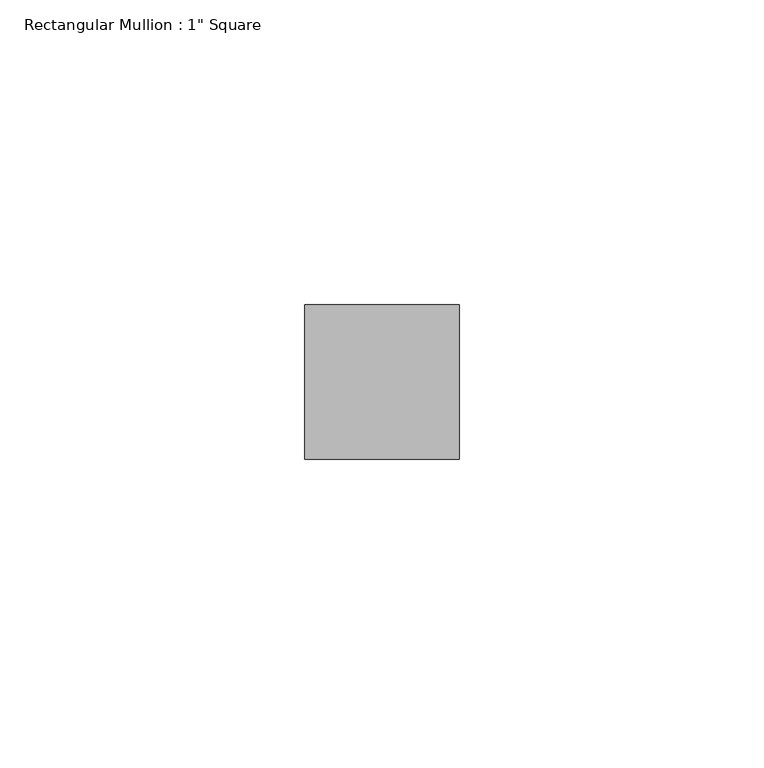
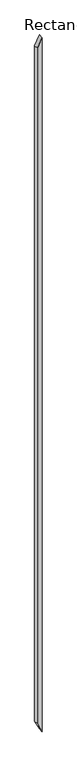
"""IFC4 building model written with IfcOpenShell, lengths in millimetres: member geometry."""

from ifc_helpers import new_model, si_unit, frame, origin, place, context, project, spatial, polyline, outline, extrude, source, transform, mapped, element, save


def member_621c6d7b(model_context):
    return source(origin(), model_context, "Body", "SweptSolid", [
        extrude(outline(polyline([(0.0, 0.0), (-52.8478711, -25.4), (-3922.2521289, -25.4), (-3975.1, 0.0), (0.0, 0.0)])), frame((0.0, -12.7, 0.0), z_axis=(0.0, 1.0, 0.0), x_axis=(0.0, 0.0, 1.0)), (0.0, 0.0, 1.0), 25.4),
    ])


if __name__ == "__main__":
    model = new_model("IFC4")
    model_context = context("Model", 3, world=origin())
    ifc_project = project(units=[si_unit("LENGTHUNIT", "METRE", prefix="MILLI")], contexts=[model_context])
    site = spatial("IfcSite", under=ifc_project)
    building = spatial("IfcBuilding", under=site)
    placement = place(None, origin())
    member_shape = member_621c6d7b(model_context)
    element("IfcMember", 1, ObjectType="Rectangular Mullion : 1\" Square", at=placement, inside=building, context=model_context, shape_type="MappedRepresentation", body=[
        mapped(member_shape, transform((0.0, 0.0, 0.0), x_axis=(1.0, 0.0, 0.0), y_axis=(0.0, 1.0, 0.0), z_axis=(0.0, 0.0, 1.0))),
    ])
    save(model, "model.ifc")
